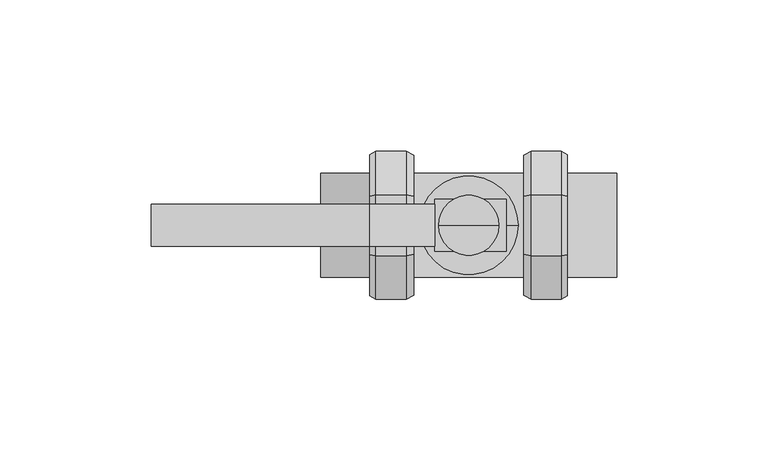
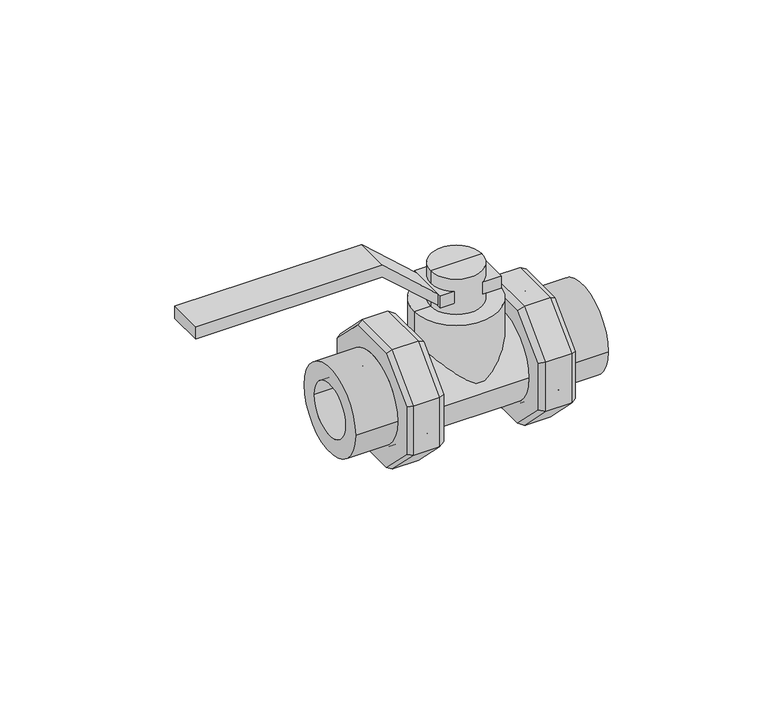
"""IFC4 building model written with IfcOpenShell, lengths in millimetres: valve geometry, EGB_VASEN_ PPR_Valvula de bola doble union WXR800 : Válvula de bola doble unión WXR800."""

from ifc_helpers import new_model, si_unit, point, frame, origin, origin_2d, place, context, project, spatial, polyline, circle_curve, trimmed, segment, composite_curve, outline, extrude, source, transform, mapped, element, save
from ifc_brep_helpers import plane_surface, cylinder_surface, revolved_surface, advanced_brep


def valve_86e69bd9(model_context):
    return source(origin(), model_context, "Body", "SolidModel", [
        advanced_brep(
        [(30.6666667, 10.1482323, 24.5), (30.6666667, 24.5, 10.1482323), (20.6387808, 24.5, 10.1482323), (20.6387808, 10.1482323, 24.5), (20.6387808, -10.1482323, 24.5), (30.6666667, -10.1482323, 24.5), (30.6666667, -10.1482323, -24.5), (30.6666667, -24.5, -10.1482323), (20.6387808, -24.5, -10.1482323), (20.6387808, -10.1482323, -24.5), (20.6387808, 10.1482323, -24.5), (30.6666667, 10.1482323, -24.5), (20.6387808, -24.5, 10.1482323), (30.6666667, -24.5, 10.1482323), (20.6387808, 24.5, -10.1482323), (30.6666667, 24.5, -10.1482323), (32.6666667, 9.6699397, 23.3452995), (32.6666667, -9.6699397, 23.3452995), (32.6666667, -23.3452995, 9.6699397), (32.6666667, -23.3452995, -9.6699397), (32.6666667, -9.6699397, -23.3452995), (32.6666667, 9.6699397, -23.3452995), (32.6666667, 23.3452995, -9.6699397), (32.6666667, 23.3452995, 9.6699397), (32.6666667, 17.25, 0.0), (32.6666667, -17.25, 0.0), (18.1892911, 23.0857864, 9.5624458), (18.1892911, 23.0857864, -9.5624458), (18.1892911, 9.5624458, -23.0857864), (18.1892911, -9.5624458, -23.0857864), (18.1892911, -23.0857864, -9.5624458), (18.1892911, -23.0857864, 9.5624458), (18.1892911, -9.5624458, 23.0857864), (18.1892911, 9.5624458, 23.0857864), (18.1892911, -17.25, 0.0), (18.1892911, 17.25, 0.0)],
        [
            (0, 1),
            (1, 2),
            (2, 3),
            (3, 0),
            (3, 4),
            (4, 5),
            (5, 0),
            (6, 7),
            (7, 8),
            (8, 9),
            (9, 6),
            (9, 10),
            (10, 11),
            (11, 6),
            (4, 12),
            (12, 13),
            (13, 5),
            (12, 8),
            (7, 13),
            (10, 14),
            (14, 15),
            (15, 11),
            (16, 17),
            (17, 18),
            (18, 19),
            (19, 20),
            (20, 21),
            (21, 22),
            (22, 23),
            (23, 16),
            (24, 25, circle_curve(frame((32.6666667, 0.0, 0.0), z_axis=(-1.0, 0.0, 0.0), x_axis=(0.0, -1.0, 0.0)), 17.25)),
            (25, 24, circle_curve(frame((32.6666667, 0.0, 0.0), z_axis=(-1.0, 0.0, 0.0), x_axis=(0.0, -1.0, 0.0)), 17.25)),
            (14, 2),
            (1, 15),
            (26, 27),
            (27, 28),
            (28, 29),
            (29, 30),
            (30, 31),
            (31, 32),
            (32, 33),
            (33, 26),
            (34, 35, circle_curve(frame((18.1892911, 0.0, 0.0), z_axis=(1.0, 0.0, 0.0), x_axis=(0.0, -1.0, 0.0)), 17.25)),
            (35, 34, circle_curve(frame((18.1892911, 0.0, 0.0), z_axis=(1.0, 0.0, 0.0), x_axis=(0.0, -1.0, 0.0)), 17.25)),
            (2, 26),
            (33, 3),
            (23, 1),
            (0, 16),
            (32, 4),
            (5, 17),
            (8, 30),
            (29, 9),
            (19, 7),
            (6, 20),
            (28, 10),
            (11, 21),
            (31, 12),
            (13, 18),
            (27, 14),
            (15, 22),
            (25, 34),
            (35, 24),
        ],
        [
            plane_surface(frame((32.6666667, 24.5, 10.1482323), z_axis=(0.0, 0.7071067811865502, 0.7071067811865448), x_axis=(0.0, -0.7071067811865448, 0.7071067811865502))),
            plane_surface(frame((32.6666667, 10.1482323, 24.5), z_axis=(0.0, 0.0, 1.0), x_axis=(0.0, -1.0, 0.0))),
            plane_surface(frame((32.6666667, -24.5, -10.1482323), z_axis=(0.0, -0.7071067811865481, -0.707106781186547), x_axis=(0.0, 0.707106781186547, -0.7071067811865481))),
            plane_surface(frame((32.6666667, -10.1482323, -24.5), z_axis=(0.0, 0.0, -1.0), x_axis=(0.0, 1.0, 0.0))),
            plane_surface(frame((32.6666667, -10.1482323, 24.5), z_axis=(0.0, -0.7071067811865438, 0.7071067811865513), x_axis=(0.0, -0.7071067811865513, -0.7071067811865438))),
            plane_surface(frame((32.6666667, -24.5, 10.1482323), z_axis=(0.0, -1.0, 0.0), x_axis=(0.0, 0.0, -1.0))),
            plane_surface(frame((32.6666667, 10.1482323, -24.5), z_axis=(0.0, 0.7071067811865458, -0.7071067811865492), x_axis=(0.0, 0.7071067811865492, 0.7071067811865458))),
            plane_surface(frame((32.6666667, 0.0, 0.0), z_axis=(1.0, 0.0, 0.0), x_axis=(0.0, 0.0, 1.0))),
            plane_surface(frame((32.6666667, 24.5, -10.1482323), z_axis=(0.0, 1.0, 0.0), x_axis=(0.0, 0.0, 1.0))),
            plane_surface(frame((18.1892911, 24.5, -10.1482323), z_axis=(-1.0, 0.0, 0.0), x_axis=(0.0, 0.0, 1.0))),
            plane_surface(frame((18.1892911, 23.0857864, 9.5624458), z_axis=(-0.49999999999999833, 0.6123724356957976, 0.6123724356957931), x_axis=(0.0, -0.707106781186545, 0.7071067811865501))),
            plane_surface(frame((30.6666667, 24.5, 10.1482323), z_axis=(0.4999999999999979, 0.6123724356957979, 0.6123724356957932), x_axis=(0.0, -0.7071067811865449, 0.7071067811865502))),
            plane_surface(frame((18.1892911, 9.5624458, 23.0857864), z_axis=(-0.4999999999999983, 0.0, 0.8660254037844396), x_axis=(0.0, -1.0, 0.0))),
            plane_surface(frame((30.6666667, 10.1482323, 24.5), z_axis=(0.4999999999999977, 0.0, 0.86602540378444), x_axis=(0.0, -1.0, 0.0))),
            plane_surface(frame((18.1892911, -23.0857864, -9.5624458), z_axis=(-0.49999999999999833, -0.6123724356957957, -0.6123724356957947), x_axis=(0.0, 0.707106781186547, -0.7071067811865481))),
            plane_surface(frame((30.6666667, -24.5, -10.1482323), z_axis=(0.4999999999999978, -0.612372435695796, -0.612372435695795), x_axis=(0.0, 0.7071067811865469, -0.7071067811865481))),
            plane_surface(frame((18.1892911, -9.5624458, -23.0857864), z_axis=(-0.4999999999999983, 0.0, -0.8660254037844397), x_axis=(0.0, 1.0, 0.0))),
            plane_surface(frame((30.6666667, -10.1482323, -24.5), z_axis=(0.49999999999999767, 0.0, -0.86602540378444), x_axis=(0.0, 1.0, 0.0))),
            plane_surface(frame((18.1892911, -9.5624458, 23.0857864), z_axis=(-0.49999999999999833, -0.6123724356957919, 0.6123724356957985), x_axis=(0.0, -0.7071067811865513, -0.7071067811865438))),
            plane_surface(frame((30.6666667, -10.1482323, 24.5), z_axis=(0.49999999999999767, -0.6123724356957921, 0.612372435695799), x_axis=(0.0, -0.7071067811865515, -0.7071067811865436))),
            plane_surface(frame((18.1892911, -23.0857864, 9.5624458), z_axis=(-0.49999999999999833, -0.8660254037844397, 0.0), x_axis=(0.0, 0.0, -1.0))),
            plane_surface(frame((30.6666667, -24.5, 10.1482323), z_axis=(0.4999999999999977, -0.86602540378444, 0.0), x_axis=(0.0, 0.0, -1.0))),
            plane_surface(frame((18.1892911, 9.5624458, -23.0857864), z_axis=(-0.4999999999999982, 0.6123724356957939, -0.6123724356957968), x_axis=(0.0, 0.7071067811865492, 0.7071067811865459))),
            plane_surface(frame((30.6666667, 10.1482323, -24.5), z_axis=(0.4999999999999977, 0.6123724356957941, -0.6123724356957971), x_axis=(0.0, 0.7071067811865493, 0.7071067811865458))),
            plane_surface(frame((18.1892911, 23.0857864, -9.5624458), z_axis=(-0.4999999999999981, 0.8660254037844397, 0.0), x_axis=(0.0, 0.0, 1.0))),
            plane_surface(frame((30.6666667, 24.5, -10.1482323), z_axis=(0.49999999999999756, 0.86602540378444, 0.0), x_axis=(0.0, 0.0, 1.0))),
            revolved_surface(polyline([(18.1892911, -17.25, 0.0), (32.6666667, -17.25, 0.0)]), (32.6666667, 0.0, 0.0), (-1.0, 0.0, 0.0)),
        ],
        [
            (0, [[1, 2, 3, 4]]),
            (1, [[5, 6, 7, -4]]),
            (2, [[8, 9, 10, 11]]),
            (3, [[12, 13, 14, -11]]),
            (4, [[15, 16, 17, -6]]),
            (5, [[18, -9, 19, -16]]),
            (6, [[20, 21, 22, -13]]),
            (7, [[23, 24, 25, 26, 27, 28, 29, 30], [31, 32]]),
            (8, [[33, -2, 34, -21]]),
            (9, [[35, 36, 37, 38, 39, 40, 41, 42], [43, 44]]),
            (10, [[-3, 45, -42, 46]]),
            (11, [[-30, 47, -1, 48]]),
            (12, [[-41, 49, -5, -46]]),
            (13, [[-7, 50, -23, -48]]),
            (14, [[-10, 51, -38, 52]]),
            (15, [[-26, 53, -8, 54]]),
            (16, [[-37, 55, -12, -52]]),
            (17, [[-14, 56, -27, -54]]),
            (18, [[-40, 57, -15, -49]]),
            (19, [[-17, 58, -24, -50]]),
            (20, [[-18, -57, -39, -51]]),
            (21, [[-25, -58, -19, -53]]),
            (22, [[-36, 59, -20, -55]]),
            (23, [[-22, 60, -28, -56]]),
            (24, [[-33, -59, -35, -45]]),
            (25, [[-29, -60, -34, -47]]),
            (26, [[-32, 61, -44, 62]]),
            (26, [[-43, -61, -31, -62]]),
        ],
    ),
        advanced_brep(
        [(-30.6666667, 10.1482323, 24.5), (-20.6387808, 10.1482323, 24.5), (-20.6387808, 24.5, 10.1482323), (-30.6666667, 24.5, 10.1482323), (-30.6666667, -10.1482323, 24.5), (-20.6387808, -10.1482323, 24.5), (-30.6666667, -10.1482323, -24.5), (-20.6387808, -10.1482323, -24.5), (-20.6387808, -24.5, -10.1482323), (-30.6666667, -24.5, -10.1482323), (-30.6666667, 10.1482323, -24.5), (-20.6387808, 10.1482323, -24.5), (-30.6666667, -24.5, 10.1482323), (-20.6387808, -24.5, 10.1482323), (-30.6666667, 24.5, -10.1482323), (-20.6387808, 24.5, -10.1482323), (-32.6666667, 9.6699397, 23.3452995), (-32.6666667, 23.3452995, 9.6699397), (-32.6666667, 23.3452995, -9.6699397), (-32.6666667, 9.6699397, -23.3452995), (-32.6666667, -9.6699397, -23.3452995), (-32.6666667, -23.3452995, -9.6699397), (-32.6666667, -23.3452995, 9.6699397), (-32.6666667, -9.6699397, 23.3452995), (-32.6666667, 17.25, 0.0), (-32.6666667, -17.25, 0.0), (-18.1892911, 23.0857864, 9.5624458), (-18.1892911, 9.5624458, 23.0857864), (-18.1892911, -9.5624458, 23.0857864), (-18.1892911, -23.0857864, 9.5624458), (-18.1892911, -23.0857864, -9.5624458), (-18.1892911, -9.5624458, -23.0857864), (-18.1892911, 9.5624458, -23.0857864), (-18.1892911, 23.0857864, -9.5624458), (-18.1892911, -17.25, 0.0), (-18.1892911, 17.25, 0.0)],
        [
            (0, 1),
            (1, 2),
            (2, 3),
            (3, 0),
            (0, 4),
            (4, 5),
            (5, 1),
            (6, 7),
            (7, 8),
            (8, 9),
            (9, 6),
            (6, 10),
            (10, 11),
            (11, 7),
            (4, 12),
            (12, 13),
            (13, 5),
            (12, 9),
            (8, 13),
            (10, 14),
            (14, 15),
            (15, 11),
            (16, 17),
            (17, 18),
            (18, 19),
            (19, 20),
            (20, 21),
            (21, 22),
            (22, 23),
            (23, 16),
            (24, 25, circle_curve(frame((-32.6666667, 0.0, 0.0), z_axis=(1.0, 0.0, 0.0), x_axis=(0.0, -1.0, 0.0)), 17.25)),
            (25, 24, circle_curve(frame((-32.6666667, 0.0, 0.0), z_axis=(1.0, 0.0, 0.0), x_axis=(0.0, -1.0, 0.0)), 17.25)),
            (14, 3),
            (2, 15),
            (26, 27),
            (27, 28),
            (28, 29),
            (29, 30),
            (30, 31),
            (31, 32),
            (32, 33),
            (33, 26),
            (34, 35, circle_curve(frame((-18.1892911, 0.0, 0.0), z_axis=(-1.0, 0.0, 0.0), x_axis=(0.0, -1.0, 0.0)), 17.25)),
            (35, 34, circle_curve(frame((-18.1892911, 0.0, 0.0), z_axis=(-1.0, 0.0, 0.0), x_axis=(0.0, -1.0, 0.0)), 17.25)),
            (1, 27),
            (26, 2),
            (16, 0),
            (3, 17),
            (5, 28),
            (23, 4),
            (7, 31),
            (30, 8),
            (20, 6),
            (9, 21),
            (11, 32),
            (19, 10),
            (13, 29),
            (22, 12),
            (15, 33),
            (18, 14),
            (24, 35),
            (34, 25),
        ],
        [
            plane_surface(frame((-32.6666667, 24.5, 10.1482323), z_axis=(0.0, 0.7071067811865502, 0.7071067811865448), x_axis=(0.0, -0.7071067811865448, 0.7071067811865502))),
            plane_surface(frame((-32.6666667, 10.1482323, 24.5), z_axis=(0.0, 0.0, 1.0), x_axis=(0.0, -1.0, 0.0))),
            plane_surface(frame((-32.6666667, -24.5, -10.1482323), z_axis=(0.0, -0.7071067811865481, -0.707106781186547), x_axis=(0.0, 0.707106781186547, -0.7071067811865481))),
            plane_surface(frame((-32.6666667, -10.1482323, -24.5), z_axis=(0.0, 0.0, -1.0), x_axis=(0.0, 1.0, 0.0))),
            plane_surface(frame((-32.6666667, -10.1482323, 24.5), z_axis=(0.0, -0.7071067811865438, 0.7071067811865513), x_axis=(0.0, -0.7071067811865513, -0.7071067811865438))),
            plane_surface(frame((-32.6666667, -24.5, 10.1482323), z_axis=(0.0, -1.0, 0.0), x_axis=(0.0, 0.0, -1.0))),
            plane_surface(frame((-32.6666667, 10.1482323, -24.5), z_axis=(0.0, 0.7071067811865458, -0.7071067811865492), x_axis=(0.0, 0.7071067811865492, 0.7071067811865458))),
            plane_surface(frame((-32.6666667, 0.0, 0.0), z_axis=(-1.0, 0.0, 0.0), x_axis=(0.0, 0.0, 1.0))),
            plane_surface(frame((-32.6666667, 24.5, -10.1482323), z_axis=(0.0, 1.0, 0.0), x_axis=(0.0, 0.0, 1.0))),
            plane_surface(frame((-18.1892911, 24.5, -10.1482323), z_axis=(1.0, 0.0, 0.0), x_axis=(0.0, 0.0, 1.0))),
            plane_surface(frame((-18.1892911, 23.0857864, 9.5624458), z_axis=(0.49999999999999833, 0.6123724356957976, 0.6123724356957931), x_axis=(0.0, -0.707106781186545, 0.7071067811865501))),
            plane_surface(frame((-30.6666667, 24.5, 10.1482323), z_axis=(-0.4999999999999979, 0.6123724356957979, 0.6123724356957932), x_axis=(0.0, -0.7071067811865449, 0.7071067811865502))),
            plane_surface(frame((-18.1892911, 9.5624458, 23.0857864), z_axis=(0.4999999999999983, 0.0, 0.8660254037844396), x_axis=(0.0, -1.0, 0.0))),
            plane_surface(frame((-30.6666667, 10.1482323, 24.5), z_axis=(-0.4999999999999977, 0.0, 0.86602540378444), x_axis=(0.0, -1.0, 0.0))),
            plane_surface(frame((-18.1892911, -23.0857864, -9.5624458), z_axis=(0.49999999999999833, -0.6123724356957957, -0.6123724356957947), x_axis=(0.0, 0.707106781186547, -0.7071067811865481))),
            plane_surface(frame((-30.6666667, -24.5, -10.1482323), z_axis=(-0.4999999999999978, -0.612372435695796, -0.612372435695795), x_axis=(0.0, 0.7071067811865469, -0.7071067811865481))),
            plane_surface(frame((-18.1892911, -9.5624458, -23.0857864), z_axis=(0.4999999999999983, 0.0, -0.8660254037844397), x_axis=(0.0, 1.0, 0.0))),
            plane_surface(frame((-30.6666667, -10.1482323, -24.5), z_axis=(-0.49999999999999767, 0.0, -0.86602540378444), x_axis=(0.0, 1.0, 0.0))),
            plane_surface(frame((-18.1892911, -9.5624458, 23.0857864), z_axis=(0.49999999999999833, -0.6123724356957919, 0.6123724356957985), x_axis=(0.0, -0.7071067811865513, -0.7071067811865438))),
            plane_surface(frame((-30.6666667, -10.1482323, 24.5), z_axis=(-0.49999999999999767, -0.6123724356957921, 0.612372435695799), x_axis=(0.0, -0.7071067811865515, -0.7071067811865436))),
            plane_surface(frame((-18.1892911, -23.0857864, 9.5624458), z_axis=(0.49999999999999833, -0.8660254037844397, 0.0), x_axis=(0.0, 0.0, -1.0))),
            plane_surface(frame((-30.6666667, -24.5, 10.1482323), z_axis=(-0.4999999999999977, -0.86602540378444, 0.0), x_axis=(0.0, 0.0, -1.0))),
            plane_surface(frame((-18.1892911, 9.5624458, -23.0857864), z_axis=(0.4999999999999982, 0.6123724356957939, -0.6123724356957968), x_axis=(0.0, 0.7071067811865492, 0.7071067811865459))),
            plane_surface(frame((-30.6666667, 10.1482323, -24.5), z_axis=(-0.4999999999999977, 0.6123724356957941, -0.6123724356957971), x_axis=(0.0, 0.7071067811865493, 0.7071067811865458))),
            plane_surface(frame((-18.1892911, 23.0857864, -9.5624458), z_axis=(0.4999999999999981, 0.8660254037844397, 0.0), x_axis=(0.0, 0.0, 1.0))),
            plane_surface(frame((-30.6666667, 24.5, -10.1482323), z_axis=(-0.49999999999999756, 0.86602540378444, 0.0), x_axis=(0.0, 0.0, 1.0))),
            revolved_surface(polyline([(-18.1892911, -17.25, 0.0), (-32.6666667, -17.25, 0.0)]), (-32.6666667, 0.0, 0.0), (1.0, 0.0, 0.0)),
        ],
        [
            (0, [[1, 2, 3, 4]]),
            (1, [[-1, 5, 6, 7]]),
            (2, [[8, 9, 10, 11]]),
            (3, [[-8, 12, 13, 14]]),
            (4, [[-6, 15, 16, 17]]),
            (5, [[-16, 18, -10, 19]]),
            (6, [[-13, 20, 21, 22]]),
            (7, [[23, 24, 25, 26, 27, 28, 29, 30], [31, 32]]),
            (8, [[-21, 33, -3, 34]]),
            (9, [[35, 36, 37, 38, 39, 40, 41, 42], [43, 44]]),
            (10, [[45, -35, 46, -2]]),
            (11, [[47, -4, 48, -23]]),
            (12, [[-45, -7, 49, -36]]),
            (13, [[-47, -30, 50, -5]]),
            (14, [[51, -39, 52, -9]]),
            (15, [[53, -11, 54, -27]]),
            (16, [[-51, -14, 55, -40]]),
            (17, [[-53, -26, 56, -12]]),
            (18, [[-49, -17, 57, -37]]),
            (19, [[-50, -29, 58, -15]]),
            (20, [[-52, -38, -57, -19]]),
            (21, [[-54, -18, -58, -28]]),
            (22, [[-55, -22, 59, -41]]),
            (23, [[-56, -25, 60, -20]]),
            (24, [[-46, -42, -59, -34]]),
            (25, [[-48, -33, -60, -24]]),
            (26, [[61, -43, 62, -31]]),
            (26, [[-61, -32, -62, -44]]),
        ],
    ),
        advanced_brep(
        [(0.0, 0.0, 0.0), (-16.3333333, 0.0, 0.0), (16.3333333, 0.0, 0.0), (9.9453445, 0.0, 43.5), (-9.9453445, 0.0, 43.5), (0.0, 0.0, 43.5), (9.9453445, 0.0, 29.0), (-9.9453445, 0.0, 29.0), (16.3333333, 0.0, 29.0), (-16.3333333, 0.0, 29.0)],
        [
            (0, 1),
            (1, 2, circle_curve(frame((0.0, 0.0, 0.0), z_axis=(0.0, 0.0, -1.0), x_axis=(-1.0, 0.0, 0.0)), 16.3333333)),
            (2, 0),
            (2, 1, circle_curve(frame((0.0, 0.0, 0.0), z_axis=(0.0, 0.0, -1.0), x_axis=(-1.0, 0.0, 0.0)), 16.3333333)),
            (3, 4, circle_curve(frame((0.0, 0.0, 43.5), z_axis=(0.0, 0.0, 1.0), x_axis=(-1.0, 0.0, 0.0)), 9.9453445)),
            (4, 5),
            (5, 3),
            (4, 3, circle_curve(frame((0.0, 0.0, 43.5), z_axis=(0.0, 0.0, 1.0), x_axis=(-1.0, 0.0, 0.0)), 9.9453445)),
            (6, 7, circle_curve(frame((0.0, 0.0, 29.0), z_axis=(0.0, 0.0, 1.0), x_axis=(-1.0, 0.0, 0.0)), 9.9453445)),
            (7, 4),
            (3, 6),
            (7, 6, circle_curve(frame((0.0, 0.0, 29.0), z_axis=(0.0, 0.0, 1.0), x_axis=(-1.0, 0.0, 0.0)), 9.9453445)),
            (8, 9, circle_curve(frame((0.0, 0.0, 29.0), z_axis=(0.0, 0.0, 1.0), x_axis=(-1.0, 0.0, 0.0)), 16.3333333)),
            (9, 7),
            (6, 8),
            (9, 8, circle_curve(frame((0.0, 0.0, 29.0), z_axis=(0.0, 0.0, 1.0), x_axis=(-1.0, 0.0, 0.0)), 16.3333333)),
            (1, 9),
            (8, 2),
        ],
        [
            plane_surface(frame((0.0, 0.0, 0.0), z_axis=(0.0, 0.0, -1.0), x_axis=(-1.0, 0.0, 0.0))),
            plane_surface(frame((0.0, 0.0, 43.5), z_axis=(0.0, 0.0, 1.0), x_axis=(-1.0, 0.0, 0.0))),
            cylinder_surface(frame((0.0, 0.0, 69.25), z_axis=(0.0, 0.0, -1.0), x_axis=(-1.0, 0.0, 0.0)), 9.9453445),
            plane_surface(frame((0.0, 0.0, 29.0), z_axis=(0.0, 0.0, 1.0), x_axis=(-1.0, 0.0, 0.0))),
            cylinder_surface(frame((0.0, 0.0, 69.25), z_axis=(0.0, 0.0, -1.0), x_axis=(-1.0, 0.0, 0.0)), 16.3333333),
        ],
        [
            (0, [[1, 2, 3]]),
            (0, [[-3, 4, -1]]),
            (1, [[5, 6, 7]]),
            (1, [[8, -7, -6]]),
            (2, [[9, 10, -5, 11]]),
            (2, [[12, -11, -8, -10]]),
            (3, [[13, 14, -9, 15]]),
            (3, [[16, -15, -12, -14]]),
            (4, [[-2, 17, -13, 18]]),
            (4, [[-4, -18, -16, -17]]),
        ],
    ),
        extrude(outline(composite_curve([segment(trimmed(circle_curve(origin_2d(), 17.25), [point((-17.25, 0.0))], [point((17.25, 0.0))], False, "CARTESIAN"), True, "CONTINUOUS"), segment(trimmed(circle_curve(origin_2d(), 17.25), [point((17.25, 0.0))], [point((-17.25, 0.0))], False, "CARTESIAN"), True, "CONTINUOUS")], self_intersect=False)), frame((-18.2431733, 0.0, 0.0), z_axis=(1.0, 0.0, 0.0), x_axis=(0.0, 1.0, 0.0)), (0.0, 0.0, 1.0), 36.4863466),
        extrude(outline(composite_curve([segment(trimmed(circle_curve(origin_2d(), 17.25), [point((-17.25, 0.0))], [point((17.25, 0.0))], False, "CARTESIAN"), True, "CONTINUOUS"), segment(trimmed(circle_curve(origin_2d(), 17.25), [point((17.25, 0.0))], [point((-17.25, 0.0))], False, "CARTESIAN"), True, "CONTINUOUS")], self_intersect=False), holes=[composite_curve([segment(trimmed(circle_curve(origin_2d(), 10.5), [point((-10.5, 0.0))], [point((10.5, 0.0))], True, "CARTESIAN"), True, "CONTINUOUS"), segment(trimmed(circle_curve(origin_2d(), 10.5), [point((10.5, 0.0))], [point((-10.5, 0.0))], True, "CARTESIAN"), True, "CONTINUOUS")], self_intersect=False)]), frame((-49.0, 0.0, 0.0), z_axis=(1.0, 0.0, 0.0), x_axis=(0.0, 1.0, 0.0)), (0.0, 0.0, 1.0), 16.3333333),
        extrude(outline(composite_curve([segment(trimmed(circle_curve(origin_2d(), 17.25), [point((-17.25, 0.0))], [point((17.25, 0.0))], False, "CARTESIAN"), True, "CONTINUOUS"), segment(trimmed(circle_curve(origin_2d(), 17.25), [point((17.25, 0.0))], [point((-17.25, 0.0))], False, "CARTESIAN"), True, "CONTINUOUS")], self_intersect=False), holes=[composite_curve([segment(trimmed(circle_curve(origin_2d(), 10.5), [point((-10.5, 0.0))], [point((10.5, 0.0))], True, "CARTESIAN"), True, "CONTINUOUS"), segment(trimmed(circle_curve(origin_2d(), 10.5), [point((10.5, 0.0))], [point((-10.5, 0.0))], True, "CARTESIAN"), True, "CONTINUOUS")], self_intersect=False)]), frame((32.6666667, 0.0, 0.0), z_axis=(1.0, 0.0, 0.0), x_axis=(0.0, 1.0, 0.0)), (0.0, 0.0, 1.0), 16.3333333),
        extrude(outline(polyline([(38.6666667, -11.1751142), (58.0, -32.6666667), (58.0, -105.0), (53.0, -105.0), (53.0, -32.6666667), (34.0833333, -11.1751142), (38.6666667, -11.1751142)])), frame((0.0, -7.0, 0.0), z_axis=(0.0, 1.0, 0.0), x_axis=(0.0, 0.0, 1.0)), (0.0, 0.0, 1.0), 14.0),
        extrude(outline(polyline([(12.4915525, -8.625), (-11.1751142, -8.625), (-11.1751142, 8.625), (12.4915525, 8.625), (12.4915525, -8.625)])), frame((0.0, 0.0, 33.8333333), z_axis=(0.0, 0.0, 1.0), x_axis=(1.0, 0.0, 0.0)), (0.0, 0.0, 1.0), 4.8333333),
        extrude(outline(composite_curve([segment(trimmed(circle_curve(origin_2d(), 18.0), [point((-18.0, 0.0))], [point((18.0, 0.0))], False, "CARTESIAN"), True, "CONTINUOUS"), segment(trimmed(circle_curve(origin_2d(), 18.0), [point((18.0, 0.0))], [point((-18.0, 0.0))], False, "CARTESIAN"), True, "CONTINUOUS")], self_intersect=False)), frame((-32.6666667, 0.0, 0.0), z_axis=(1.0, 0.0, 0.0), x_axis=(0.0, 1.0, 0.0)), (0.0, 0.0, 1.0), 14.4234933),
        extrude(outline(composite_curve([segment(trimmed(circle_curve(origin_2d(), 18.0), [point((-18.0, 0.0))], [point((18.0, 0.0))], False, "CARTESIAN"), True, "CONTINUOUS"), segment(trimmed(circle_curve(origin_2d(), 18.0), [point((18.0, 0.0))], [point((-18.0, 0.0))], False, "CARTESIAN"), True, "CONTINUOUS")], self_intersect=False)), frame((18.2431733, 0.0, 0.0), z_axis=(1.0, 0.0, 0.0), x_axis=(0.0, 1.0, 0.0)), (0.0, 0.0, 1.0), 14.4234933),
    ])


if __name__ == "__main__":
    model = new_model("IFC4")
    model_context = context("Model", 3, world=origin())
    ifc_project = project(units=[si_unit("LENGTHUNIT", "METRE", prefix="MILLI")], contexts=[model_context])
    site = spatial("IfcSite", under=ifc_project)
    building = spatial("IfcBuilding", under=site)
    placement = place(None, origin())
    valve_shape = valve_86e69bd9(model_context)
    element("IfcValve", 1, ObjectType="EGB_VASEN_ PPR_Valvula de bola doble union WXR800 : Válvula de bola doble unión WXR800", at=placement, inside=building, context=model_context, shape_type="MappedRepresentation", body=[
        mapped(valve_shape, transform((0.0, 0.0, 0.0), x_axis=(1.0, 0.0, 0.0), y_axis=(0.0, 1.0, 0.0), z_axis=(0.0, 0.0, 1.0))),
    ])
    save(model, "model.ifc")
